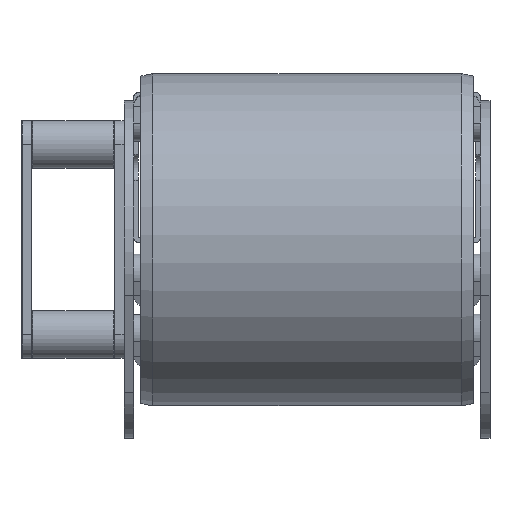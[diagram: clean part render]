
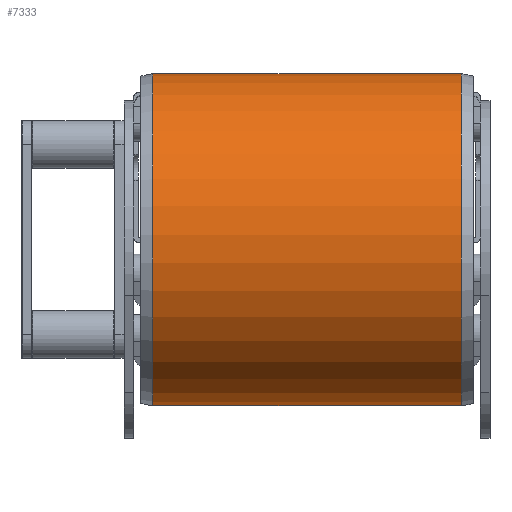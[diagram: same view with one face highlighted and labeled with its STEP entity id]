
A CAD part, front view. The second image highlights one B-rep face of the part: STEP entity #7333.
In plain terms, the highlighted cylindrical face has radius 70 mm (diameter 140 mm), a partial arc.
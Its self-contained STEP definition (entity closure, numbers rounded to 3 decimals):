
#227=CYLINDRICAL_SURFACE('',#8083,70.);
#636=FACE_OUTER_BOUND('',#1092,.T.);
#1092=EDGE_LOOP('',(#5828,#5829,#5830,#5831));
#1467=CIRCLE('',#8081,70.);
#1469=CIRCLE('',#8084,70.);
#1988=LINE('',#11955,#2632);
#1995=LINE('',#11975,#2639);
#2632=VECTOR('',#9707,10.);
#2639=VECTOR('',#9728,10.);
#3297=VERTEX_POINT('',#11947);
#3299=VERTEX_POINT('',#11953);
#3303=VERTEX_POINT('',#11967);
#3305=VERTEX_POINT('',#11973);
#4183=EDGE_CURVE('',#3297,#3299,#1988,.T.);
#4189=EDGE_CURVE('',#3303,#3297,#1467,.T.);
#4192=EDGE_CURVE('',#3305,#3299,#1469,.T.);
#4193=EDGE_CURVE('',#3303,#3305,#1995,.T.);
#5828=ORIENTED_EDGE('',*,*,#4183,.T.);
#5829=ORIENTED_EDGE('',*,*,#4192,.F.);
#5830=ORIENTED_EDGE('',*,*,#4193,.F.);
#5831=ORIENTED_EDGE('',*,*,#4189,.T.);
#7333=ADVANCED_FACE('',(#636),#227,.T.);
#8081=AXIS2_PLACEMENT_3D('',#11968,#9719,#9720);
#8083=AXIS2_PLACEMENT_3D('',#11972,#9724,#9725);
#8084=AXIS2_PLACEMENT_3D('',#11974,#9726,#9727);
#9707=DIRECTION('',(1.,0.,0.));
#9719=DIRECTION('center_axis',(1.,0.,0.));
#9720=DIRECTION('ref_axis',(0.,0.,1.));
#9724=DIRECTION('center_axis',(1.,0.,0.));
#9725=DIRECTION('ref_axis',(0.,-0.99,-0.139));
#9726=DIRECTION('center_axis',(1.,0.,0.));
#9727=DIRECTION('ref_axis',(0.,0.,1.));
#9728=DIRECTION('',(1.,0.,0.));
#11947=CARTESIAN_POINT('',(-411.441,-698.577,-49.045));
#11953=CARTESIAN_POINT('',(-281.441,-698.577,-49.045));
#11955=CARTESIAN_POINT('',(-281.441,-698.577,-49.045));
#11967=CARTESIAN_POINT('',(-411.441,-717.828,88.256));
#11968=CARTESIAN_POINT('Origin',(-411.441,-717.828,18.256));
#11972=CARTESIAN_POINT('Origin',(-346.441,-717.828,18.256));
#11973=CARTESIAN_POINT('',(-281.441,-717.828,88.256));
#11974=CARTESIAN_POINT('Origin',(-281.441,-717.828,18.256));
#11975=CARTESIAN_POINT('',(-281.441,-717.828,88.256));
